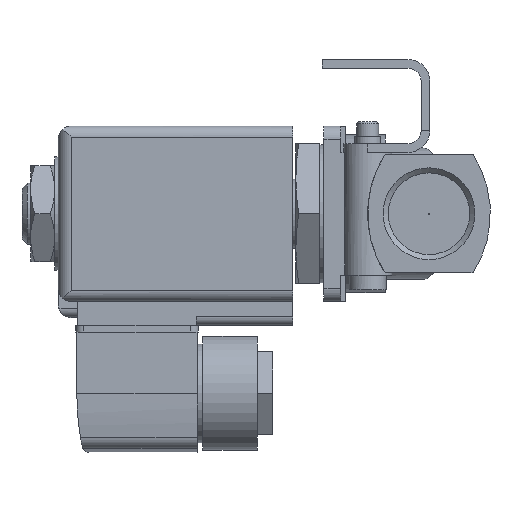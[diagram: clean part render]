
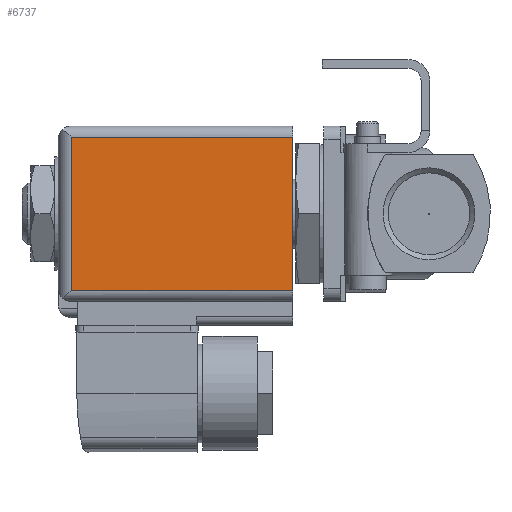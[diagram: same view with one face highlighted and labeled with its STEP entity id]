
A CAD part, left-side view. The second image highlights one B-rep face of the part: STEP entity #6737.
In plain terms, the highlighted planar face has unit normal (-1, 0, 0).
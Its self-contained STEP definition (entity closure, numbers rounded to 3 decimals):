
#281=LINE('',#9125,#719);
#282=LINE('',#9128,#720);
#283=LINE('',#9130,#721);
#284=LINE('',#9132,#722);
#719=VECTOR('',#7662,1000.);
#720=VECTOR('',#7663,1000.);
#721=VECTOR('',#7664,1000.);
#722=VECTOR('',#7665,1000.);
#1215=ORIENTED_EDGE('',*,*,#2608,.T.);
#1216=ORIENTED_EDGE('',*,*,#2609,.T.);
#1217=ORIENTED_EDGE('',*,*,#2610,.T.);
#1218=ORIENTED_EDGE('',*,*,#2611,.F.);
#2608=EDGE_CURVE('',#3297,#3298,#281,.T.);
#2609=EDGE_CURVE('',#3298,#3299,#282,.T.);
#2610=EDGE_CURVE('',#3299,#3300,#283,.T.);
#2611=EDGE_CURVE('',#3297,#3300,#284,.T.);
#3297=VERTEX_POINT('',#9126);
#3298=VERTEX_POINT('',#9127);
#3299=VERTEX_POINT('',#9129);
#3300=VERTEX_POINT('',#9131);
#3870=EDGE_LOOP('',(#1215,#1216,#1217,#1218));
#4212=FACE_BOUND('',#3870,.T.);
#4547=PLANE('',#7058);
#6737=ADVANCED_FACE('',(#4212),#4547,.F.);
#7058=AXIS2_PLACEMENT_3D('',#9124,#7660,#7661);
#7660=DIRECTION('',(1.,0.,0.));
#7661=DIRECTION('',(0.,0.,-1.));
#7662=DIRECTION('',(0.,0.,-1.));
#7663=DIRECTION('',(0.,-1.,0.));
#7664=DIRECTION('',(0.,0.,1.));
#7665=DIRECTION('',(0.,-1.,0.));
#9124=CARTESIAN_POINT('',(-20.,60.65,-20.));
#9125=CARTESIAN_POINT('',(-20.,57.65,20.));
#9126=CARTESIAN_POINT('',(-20.,57.65,17.5));
#9127=CARTESIAN_POINT('',(-20.,57.65,-17.5));
#9128=CARTESIAN_POINT('',(-20.,60.65,-17.5));
#9129=CARTESIAN_POINT('',(-20.,7.15,-17.5));
#9130=CARTESIAN_POINT('',(-20.,7.15,-20.));
#9131=CARTESIAN_POINT('',(-20.,7.15,17.5));
#9132=CARTESIAN_POINT('',(-20.,60.65,17.5));
